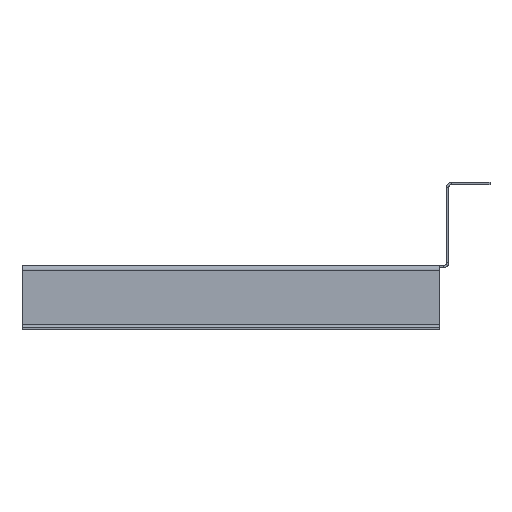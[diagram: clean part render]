
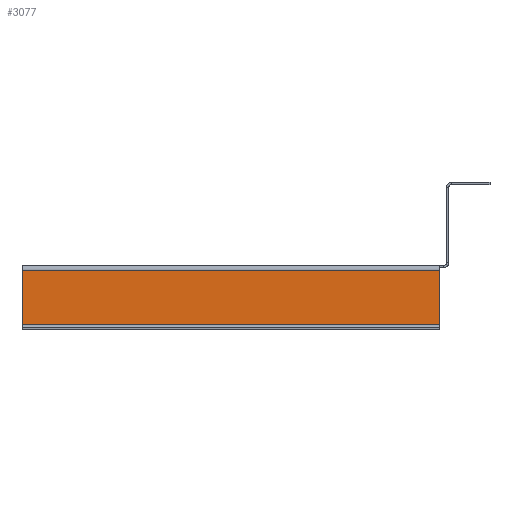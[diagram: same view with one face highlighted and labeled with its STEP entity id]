
A CAD part, left-side view. The second image highlights one B-rep face of the part: STEP entity #3077.
In plain terms, the highlighted planar face has unit normal (-1, 0, 0).
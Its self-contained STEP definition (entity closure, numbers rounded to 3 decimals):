
#182 = EDGE_CURVE ( 'NONE', #2636, #3431, #4572, .T. ) ;
#444 = DIRECTION ( 'NONE',  ( 0., 0., -1. ) ) ;
#777 = DIRECTION ( 'NONE',  ( 0., 1., 0. ) ) ;
#880 = AXIS2_PLACEMENT_3D ( 'NONE', #3694, #2537, #4886 ) ;
#1001 = VECTOR ( 'NONE', #444, 1000. ) ;
#1240 = CARTESIAN_POINT ( 'NONE',  ( -60.5, 120., -3. ) ) ;
#1483 = CARTESIAN_POINT ( 'NONE',  ( -60.5, 0., -3. ) ) ;
#1587 = ORIENTED_EDGE ( 'NONE', *, *, #3889, .F. ) ;
#1671 = ORIENTED_EDGE ( 'NONE', *, *, #4012, .F. ) ;
#1720 = ORIENTED_EDGE ( 'NONE', *, *, #182, .F. ) ;
#1948 = CARTESIAN_POINT ( 'NONE',  ( -60.5, -338., -62.6 ) ) ;
#1970 = EDGE_CURVE ( 'NONE', #2636, #3955, #4151, .T. ) ;
#2136 = PLANE ( 'NONE',  #880 ) ;
#2206 = CARTESIAN_POINT ( 'NONE',  ( -60.5, -338., -68.1 ) ) ;
#2425 = VECTOR ( 'NONE', #4729, 1000. ) ;
#2439 = CARTESIAN_POINT ( 'NONE',  ( -60.5, 120., -62.6 ) ) ;
#2537 = DIRECTION ( 'NONE',  ( -1., 0., 0. ) ) ;
#2563 = LINE ( 'NONE', #4057, #4370 ) ;
#2636 = VERTEX_POINT ( 'NONE', #3758 ) ;
#2979 = CARTESIAN_POINT ( 'NONE',  ( -60.5, 120., -62.6 ) ) ;
#3014 = ORIENTED_EDGE ( 'NONE', *, *, #1970, .T. ) ;
#3077 = ADVANCED_FACE ( 'NONE', ( #4487 ), #2136, .T. ) ;
#3266 = LINE ( 'NONE', #2439, #2425 ) ;
#3359 = VERTEX_POINT ( 'NONE', #2979 ) ;
#3431 = VERTEX_POINT ( 'NONE', #1948 ) ;
#3694 = CARTESIAN_POINT ( 'NONE',  ( -60.5, 0., 0. ) ) ;
#3758 = CARTESIAN_POINT ( 'NONE',  ( -60.5, -338., -3. ) ) ;
#3889 = EDGE_CURVE ( 'NONE', #3359, #3955, #3266, .T. ) ;
#3955 = VERTEX_POINT ( 'NONE', #1240 ) ;
#4012 = EDGE_CURVE ( 'NONE', #3431, #3359, #2563, .T. ) ;
#4057 = CARTESIAN_POINT ( 'NONE',  ( -60.5, -338., -62.6 ) ) ;
#4151 = LINE ( 'NONE', #1483, #4431 ) ;
#4164 = EDGE_LOOP ( 'NONE', ( #3014, #1587, #1671, #1720 ) ) ;
#4370 = VECTOR ( 'NONE', #4911, 1000. ) ;
#4431 = VECTOR ( 'NONE', #777, 1000. ) ;
#4487 = FACE_OUTER_BOUND ( 'NONE', #4164, .T. ) ;
#4572 = LINE ( 'NONE', #2206, #1001 ) ;
#4729 = DIRECTION ( 'NONE',  ( 0., 0., 1. ) ) ;
#4886 = DIRECTION ( 'NONE',  ( 0., 0., 1. ) ) ;
#4911 = DIRECTION ( 'NONE',  ( 0., 1., 0. ) ) ;
